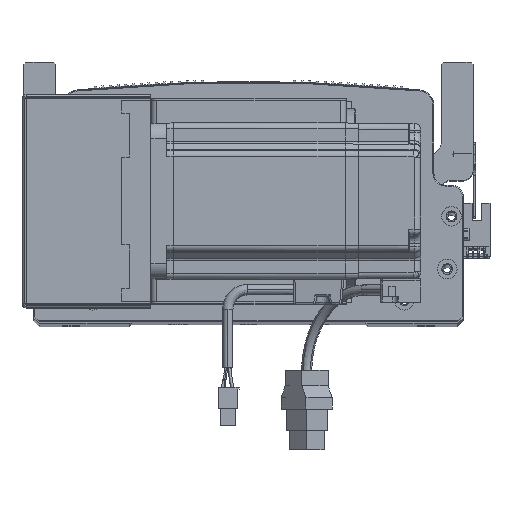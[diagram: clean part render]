
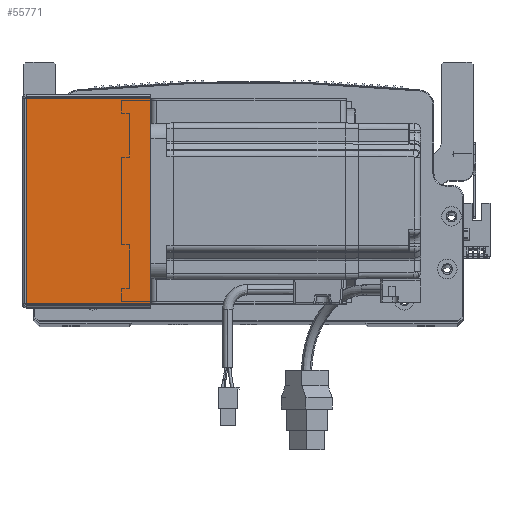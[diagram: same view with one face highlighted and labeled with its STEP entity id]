
A CAD part, top view. The second image highlights one B-rep face of the part: STEP entity #55771.
In plain terms, the highlighted planar face has unit normal (0, 0, 1) as drawn and (0, 0, -1) by its records, which use the part's own axes.
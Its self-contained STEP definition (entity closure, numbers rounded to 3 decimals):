
#912 = ORIENTED_EDGE ( 'NONE', *, *, #32946, .F. ) ;
#14571 = EDGE_CURVE ( 'NONE', #31601, #33652, #82791, .T. ) ;
#16134 = EDGE_CURVE ( 'NONE', #33652, #82637, #36819, .T. ) ;
#17661 = VECTOR ( 'NONE', #64306, 1000. ) ;
#19216 = PLANE ( 'NONE',  #50495 ) ;
#20345 = CARTESIAN_POINT ( 'NONE',  ( 0.737, 0.707, -205.5 ) ) ;
#23989 = CARTESIAN_POINT ( 'NONE',  ( 0., 105.293, -205.5 ) ) ;
#24244 = ORIENTED_EDGE ( 'NONE', *, *, #14571, .T. ) ;
#24954 = CARTESIAN_POINT ( 'NONE',  ( 0.737, 0., -205.5 ) ) ;
#25969 = DIRECTION ( 'NONE',  ( 0., 0., 1. ) ) ;
#25982 = CARTESIAN_POINT ( 'NONE',  ( 64.5, 105.293, -205.5 ) ) ;
#31184 = ORIENTED_EDGE ( 'NONE', *, *, #51025, .F. ) ;
#31601 = VERTEX_POINT ( 'NONE', #77183 ) ;
#32946 = EDGE_CURVE ( 'NONE', #54767, #82637, #76025, .T. ) ;
#33037 = DIRECTION ( 'NONE',  ( 1., 0., 0. ) ) ;
#33652 = VERTEX_POINT ( 'NONE', #25982 ) ;
#36550 = EDGE_LOOP ( 'NONE', ( #31184, #24244, #71001, #912 ) ) ;
#36819 = LINE ( 'NONE', #80207, #44919 ) ;
#39548 = DIRECTION ( 'NONE',  ( 1., 0., 0. ) ) ;
#41315 = CARTESIAN_POINT ( 'NONE',  ( 64.5, 0.707, -205.5 ) ) ;
#44059 = FACE_OUTER_BOUND ( 'NONE', #36550, .T. ) ;
#44919 = VECTOR ( 'NONE', #79357, 1000. ) ;
#47016 = LINE ( 'NONE', #24954, #17661 ) ;
#50495 = AXIS2_PLACEMENT_3D ( 'NONE', #64504, #25969, #39548 ) ;
#51025 = EDGE_CURVE ( 'NONE', #31601, #54767, #47016, .T. ) ;
#54767 = VERTEX_POINT ( 'NONE', #20345 ) ;
#55771 = ADVANCED_FACE ( 'NONE', ( #44059 ), #19216, .F. ) ;
#64306 = DIRECTION ( 'NONE',  ( 0., -1., 0. ) ) ;
#64504 = CARTESIAN_POINT ( 'NONE',  ( 0., 0., -205.5 ) ) ;
#71001 = ORIENTED_EDGE ( 'NONE', *, *, #16134, .T. ) ;
#72570 = VECTOR ( 'NONE', #33037, 1000. ) ;
#76025 = LINE ( 'NONE', #83987, #78043 ) ;
#77183 = CARTESIAN_POINT ( 'NONE',  ( 0.737, 105.293, -205.5 ) ) ;
#77966 = DIRECTION ( 'NONE',  ( 1., 0., 0. ) ) ;
#78043 = VECTOR ( 'NONE', #77966, 1000. ) ;
#79357 = DIRECTION ( 'NONE',  ( 0., -1., 0. ) ) ;
#80207 = CARTESIAN_POINT ( 'NONE',  ( 64.5, 0., -205.5 ) ) ;
#82637 = VERTEX_POINT ( 'NONE', #41315 ) ;
#82791 = LINE ( 'NONE', #23989, #72570 ) ;
#83987 = CARTESIAN_POINT ( 'NONE',  ( 0., 0.707, -205.5 ) ) ;
